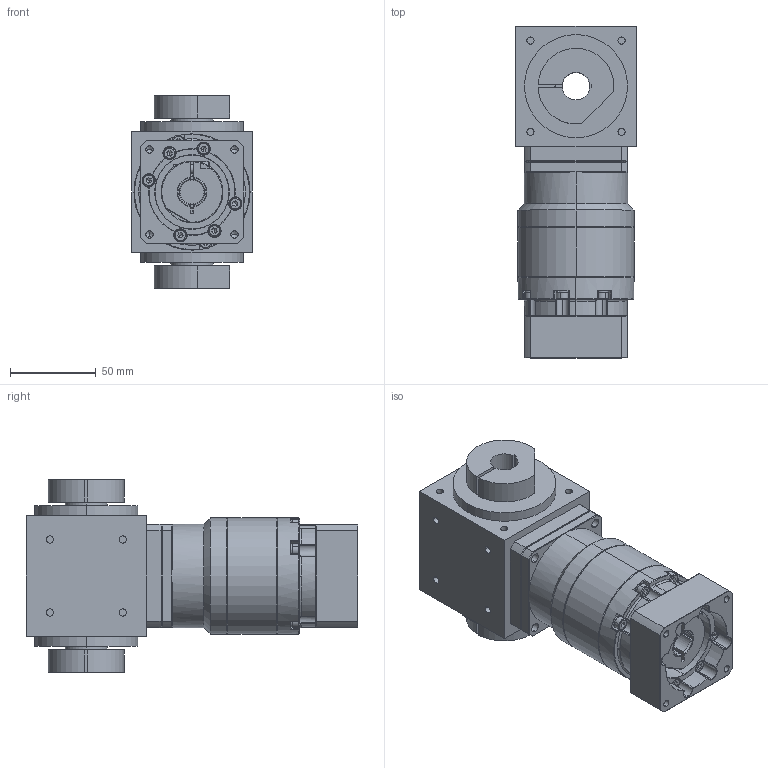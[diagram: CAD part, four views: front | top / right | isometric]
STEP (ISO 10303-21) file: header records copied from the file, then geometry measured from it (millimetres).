
FILE_DESCRIPTION (( 'STEP AP203' ), '1' );
FILE_NAME ('AAW070AS-L2-2C-K 14-50-70-M5.STEP', '2024-12-23T08:25:51', ( '' ), ( '' ), 'SwSTEP 2.0', 'SolidWorks 2021', '' );
FILE_SCHEMA (( 'CONFIG_CONTROL_DESIGN' ));
Length unit declared in the file: millimetre
Products named in the file (3): AAW070AS-L2-2C-K 14-50-70-M5; AAW070AS-L1-2C-K 14-50-70-M5_1; VRB-060-L2-S2-P1 14-50-70-M5
Assembly tree (2 placements, depth 2):
  AAW070AS-L2-2C-K 14-50-70-M5
    AAW070AS-L1-2C-K 14-50-70-M5_1
    VRB-060-L2-S2-P1 14-50-70-M5
Bounding box: 70 x 193 x 112 mm (x, y, z)
Volume: 686377.9 mm3; surface area: 125384.2 mm2
Topology: 33 solids, 33 shells, 1071 faces, 2614 edges, 1621 vertices
Faces by surface type: plane 426, cylinder 375, cone 204, torus 50, bspline 16
Entity records: 32281 total; most frequent: CARTESIAN_POINT 6650, DIRECTION 5607, ORIENTED_EDGE 5116, EDGE_CURVE 2558, AXIS2_PLACEMENT_3D 2227, VERTEX_POINT 1621, EDGE_LOOP 1185, CIRCLE 1167
